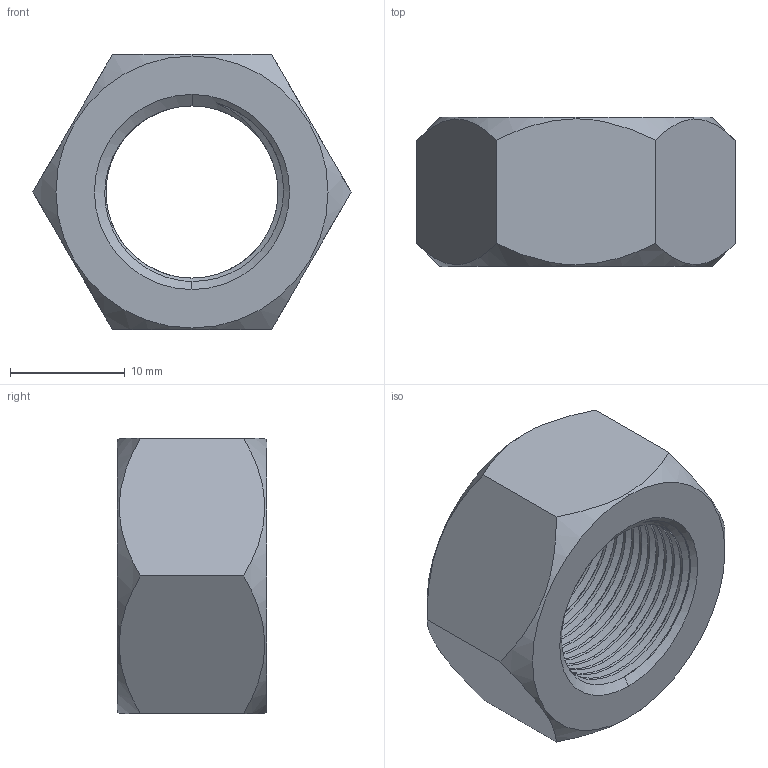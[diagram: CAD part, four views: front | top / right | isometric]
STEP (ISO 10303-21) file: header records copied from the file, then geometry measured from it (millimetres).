
FILE_DESCRIPTION (( 'STEP AP203' ), '1' );
FILE_NAME ('TANRM-304-M16x1.STEP', '2026-08-21T14:51:27', ( '' ), ( '' ), 'SwSTEP 2.0', 'SolidWorks 2020', '' );
FILE_SCHEMA (( 'CONFIG_CONTROL_DESIGN' ));
Length unit declared in the file: millimetre
Products named in the file (1): TANRM-304-M16x1
Bounding box: 27.71 x 13 x 24 mm (x, y, z)
Volume: 3950.1 mm3; surface area: 2577.4 mm2
Topology: 1 solids, 1 shells, 44 faces, 124 edges, 82 vertices
Faces by surface type: cylinder 25, cone 8, plane 8, bspline 3
Entity records: 3832 total; most frequent: CARTESIAN_POINT 2808, ORIENTED_EDGE 248, DIRECTION 146, EDGE_CURVE 124, VERTEX_POINT 82, AXIS2_PLACEMENT_3D 54, EDGE_LOOP 46, ADVANCED_FACE 44
